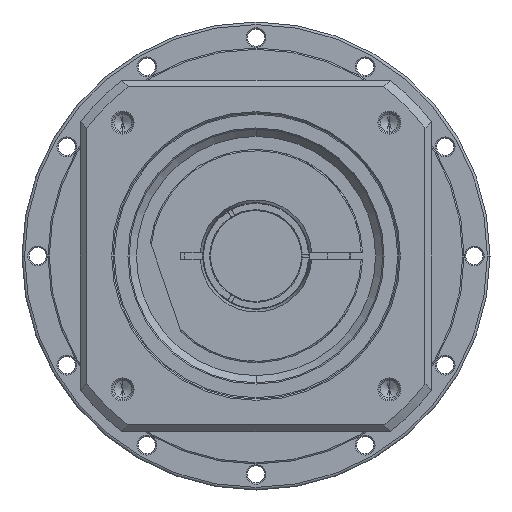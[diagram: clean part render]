
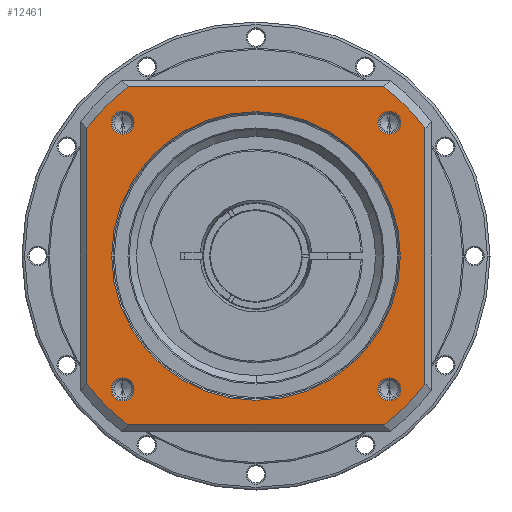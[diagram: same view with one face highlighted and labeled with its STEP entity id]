
A CAD part, left-side view. The second image highlights one B-rep face of the part: STEP entity #12461.
In plain terms, the highlighted planar face has unit normal (-1, 0, 0) as drawn and (0, 0, 1) by its records, which use the part's own axes.
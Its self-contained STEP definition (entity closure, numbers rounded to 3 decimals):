
#11201=CARTESIAN_POINT('',(0.,0.,56.));
#11202=DIRECTION('',(0.,0.,-1.));
#11203=DIRECTION('',(0.,-1.,0.));
#11204=AXIS2_PLACEMENT_3D('',#11201,#11202,#11203);
#11206=CARTESIAN_POINT('',(0.,0.,
56.));
#11207=DIRECTION('',(0.,0.,-1.));
#11208=DIRECTION('',(0.,1.,0.));
#11209=AXIS2_PLACEMENT_3D('',#11206,#11207,#11208);
#11211=DIRECTION('',(1.,0.,0.));
#11212=VECTOR('',#11211,98.331);
#11213=CARTESIAN_POINT('',(-49.166,65.,56.));
#11214=LINE('',#11213,#11212);
#11215=CARTESIAN_POINT('',(0.,0.,56.));
#11216=DIRECTION('',(0.,0.,1.));
#11217=DIRECTION('',(0.798,0.603,0.));
#11218=AXIS2_PLACEMENT_3D('',#11215,#11216,#11217);
#11220=DIRECTION('',(0.,1.,0.));
#11221=VECTOR('',#11220,98.331);
#11222=CARTESIAN_POINT('',(65.,-49.166,56.));
#11223=LINE('',#11222,#11221);
#11224=DIRECTION('',(1.,0.,0.));
#11225=VECTOR('',#11224,98.331);
#11226=CARTESIAN_POINT('',(-49.166,-65.,56.));
#11227=LINE('',#11226,#11225);
#11228=CARTESIAN_POINT('',(0.,0.,56.));
#11229=DIRECTION('',(0.,0.,1.));
#11230=DIRECTION('',(-0.798,-0.603,0.));
#11231=AXIS2_PLACEMENT_3D('',#11228,#11229,#11230);
#11233=DIRECTION('',(0.,1.,0.));
#11234=VECTOR('',#11233,98.331);
#11235=CARTESIAN_POINT('',(-65.,-49.166,56.));
#11236=LINE('',#11235,#11234);
#11251=CARTESIAN_POINT('',(0.,0.,56.));
#11252=DIRECTION('',(0.,0.,1.));
#11253=DIRECTION('',(-0.603,0.798,0.));
#11254=AXIS2_PLACEMENT_3D('',#11251,#11252,#11253);
#11261=CARTESIAN_POINT('',(0.,0.,56.));
#11262=DIRECTION('',(0.,0.,1.));
#11263=DIRECTION('',(0.603,-0.798,0.));
#11264=AXIS2_PLACEMENT_3D('',#11261,#11262,#11263);
#11278=CARTESIAN_POINT('',(-49.166,65.,56.));
#11370=CARTESIAN_POINT('',(65.,-49.166,56.));
#11398=CARTESIAN_POINT('',(49.166,-65.,56.));
#11438=CARTESIAN_POINT('',(-65.,49.166,56.));
#11447=CARTESIAN_POINT('',(-51.265,51.265,56.));
#11448=DIRECTION('',(0.,0.,1.));
#11449=DIRECTION('',(-1.,0.,0.));
#11450=AXIS2_PLACEMENT_3D('',#11447,#11448,#11449);
#11465=CARTESIAN_POINT('',(-51.265,51.265,56.));
#11466=DIRECTION('',(0.,0.,1.));
#11467=DIRECTION('',(1.,0.,0.));
#11468=AXIS2_PLACEMENT_3D('',#11465,#11466,#11467);
#11501=CARTESIAN_POINT('',(51.265,51.265,56.));
#11502=DIRECTION('',(0.,0.,1.));
#11503=DIRECTION('',(-1.,0.,0.));
#11504=AXIS2_PLACEMENT_3D('',#11501,#11502,#11503);
#11519=CARTESIAN_POINT('',(51.265,51.265,56.));
#11520=DIRECTION('',(0.,0.,1.));
#11521=DIRECTION('',(1.,0.,0.));
#11522=AXIS2_PLACEMENT_3D('',#11519,#11520,#11521);
#11555=CARTESIAN_POINT('',(51.265,-51.265,56.));
#11556=DIRECTION('',(0.,0.,1.));
#11557=DIRECTION('',(-1.,0.,0.));
#11558=AXIS2_PLACEMENT_3D('',#11555,#11556,#11557);
#11573=CARTESIAN_POINT('',(51.265,-51.265,56.));
#11574=DIRECTION('',(0.,0.,1.));
#11575=DIRECTION('',(1.,0.,0.));
#11576=AXIS2_PLACEMENT_3D('',#11573,#11574,#11575);
#11609=CARTESIAN_POINT('',(-51.265,-51.265,56.));
#11610=DIRECTION('',(0.,0.,1.));
#11611=DIRECTION('',(-1.,0.,0.));
#11612=AXIS2_PLACEMENT_3D('',#11609,#11610,#11611);
#11627=CARTESIAN_POINT('',(-51.265,-51.265,56.));
#11628=DIRECTION('',(0.,0.,1.));
#11629=DIRECTION('',(1.,0.,0.));
#11630=AXIS2_PLACEMENT_3D('',#11627,#11628,#11629);
#11792=CARTESIAN_POINT('',(-55.665,51.265,56.));
#11793=CARTESIAN_POINT('',(-46.865,51.265,56.));
#11794=VERTEX_POINT('',#11792);
#11795=VERTEX_POINT('',#11793);
#11818=CARTESIAN_POINT('',(-65.,-49.166,56.));
#11819=CARTESIAN_POINT('',(-49.166,-65.,56.));
#11820=VERTEX_POINT('',#11818);
#11821=VERTEX_POINT('',#11819);
#11822=CARTESIAN_POINT('',(65.,49.166,56.));
#11823=CARTESIAN_POINT('',(49.166,65.,56.));
#11824=VERTEX_POINT('',#11822);
#11825=VERTEX_POINT('',#11823);
#11834=VERTEX_POINT('',#11278);
#11837=VERTEX_POINT('',#11370);
#11838=VERTEX_POINT('',#11398);
#11841=VERTEX_POINT('',#11438);
#11850=CARTESIAN_POINT('',(55.665,51.265,56.));
#11851=CARTESIAN_POINT('',(46.865,51.265,56.));
#11852=VERTEX_POINT('',#11850);
#11853=VERTEX_POINT('',#11851);
#11858=CARTESIAN_POINT('',(55.665,-51.265,56.));
#11859=CARTESIAN_POINT('',(46.865,-51.265,56.));
#11860=VERTEX_POINT('',#11858);
#11861=VERTEX_POINT('',#11859);
#11866=CARTESIAN_POINT('',(-46.865,-51.265,56.));
#11867=CARTESIAN_POINT('',(-55.665,-51.265,56.));
#11868=VERTEX_POINT('',#11866);
#11869=VERTEX_POINT('',#11867);
#11874=CARTESIAN_POINT('',(0.,-55.5,56.));
#11875=CARTESIAN_POINT('',(0.,55.5,56.));
#11876=VERTEX_POINT('',#11874);
#11877=VERTEX_POINT('',#11875);
#12409=CARTESIAN_POINT('',(0.,0.,56.));
#12410=DIRECTION('',(0.,0.,1.));
#12411=DIRECTION('',(1.,0.,0.));
#12412=AXIS2_PLACEMENT_3D('',#12409,#12410,#12411);
#12413=PLANE('',#12412);
#12415=ORIENTED_EDGE('',*,*,#12414,.F.);
#12417=ORIENTED_EDGE('',*,*,#12416,.T.);
#12419=ORIENTED_EDGE('',*,*,#12418,.F.);
#12421=ORIENTED_EDGE('',*,*,#12420,.F.);
#12423=ORIENTED_EDGE('',*,*,#12422,.F.);
#12425=ORIENTED_EDGE('',*,*,#12424,.F.);
#12427=ORIENTED_EDGE('',*,*,#12426,.F.);
#12429=ORIENTED_EDGE('',*,*,#12428,.T.);
#12430=EDGE_LOOP('',(#12415,#12417,#12419,#12421,#12423,#12425,#12427,#12429));
#12431=FACE_OUTER_BOUND('',#12430,.F.);
#12432=ORIENTED_EDGE('',*,*,#12399,.F.);
#12434=ORIENTED_EDGE('',*,*,#12433,.F.);
#12435=EDGE_LOOP('',(#12432,#12434));
#12436=FACE_BOUND('',#12435,.F.);
#12438=ORIENTED_EDGE('',*,*,#12437,.T.);
#12440=ORIENTED_EDGE('',*,*,#12439,.T.);
#12441=EDGE_LOOP('',(#12438,#12440));
#12442=FACE_BOUND('',#12441,.F.);
#12444=ORIENTED_EDGE('',*,*,#12443,.T.);
#12446=ORIENTED_EDGE('',*,*,#12445,.T.);
#12447=EDGE_LOOP('',(#12444,#12446));
#12448=FACE_BOUND('',#12447,.F.);
#12450=ORIENTED_EDGE('',*,*,#12449,.T.);
#12452=ORIENTED_EDGE('',*,*,#12451,.T.);
#12453=EDGE_LOOP('',(#12450,#12452));
#12454=FACE_BOUND('',#12453,.F.);
#12456=ORIENTED_EDGE('',*,*,#12455,.T.);
#12458=ORIENTED_EDGE('',*,*,#12457,.T.);
#12459=EDGE_LOOP('',(#12456,#12458));
#12460=FACE_BOUND('',#12459,.F.);
#12461=ADVANCED_FACE('',(#12431,#12436,#12442,#12448,#12454,#12460),#12413,.T.);
#11205=CIRCLE('',#11204,55.5);
#11210=CIRCLE('',#11209,55.5);
#11219=CIRCLE('',#11218,81.5);
#11232=CIRCLE('',#11231,81.5);
#11255=CIRCLE('',#11254,81.5);
#11265=CIRCLE('',#11264,81.5);
#11451=CIRCLE('',#11450,4.4);
#11469=CIRCLE('',#11468,4.4);
#11505=CIRCLE('',#11504,4.4);
#11523=CIRCLE('',#11522,4.4);
#11559=CIRCLE('',#11558,4.4);
#11577=CIRCLE('',#11576,4.4);
#11613=CIRCLE('',#11612,4.4);
#11631=CIRCLE('',#11630,4.4);
#12399=EDGE_CURVE('',#11876,#11877,#11205,.T.);
#12414=EDGE_CURVE('',#11834,#11841,#11255,.T.);
#12416=EDGE_CURVE('',#11834,#11825,#11214,.T.);
#12418=EDGE_CURVE('',#11824,#11825,#11219,.T.);
#12420=EDGE_CURVE('',#11837,#11824,#11223,.T.);
#12422=EDGE_CURVE('',#11838,#11837,#11265,.T.);
#12424=EDGE_CURVE('',#11821,#11838,#11227,.T.);
#12426=EDGE_CURVE('',#11820,#11821,#11232,.T.);
#12428=EDGE_CURVE('',#11820,#11841,#11236,.T.);
#12433=EDGE_CURVE('',#11877,#11876,#11210,.T.);
#12437=EDGE_CURVE('',#11794,#11795,#11451,.T.);
#12439=EDGE_CURVE('',#11795,#11794,#11469,.T.);
#12443=EDGE_CURVE('',#11853,#11852,#11505,.T.);
#12445=EDGE_CURVE('',#11852,#11853,#11523,.T.);
#12449=EDGE_CURVE('',#11861,#11860,#11559,.T.);
#12451=EDGE_CURVE('',#11860,#11861,#11577,.T.);
#12455=EDGE_CURVE('',#11869,#11868,#11613,.T.);
#12457=EDGE_CURVE('',#11868,#11869,#11631,.T.);
